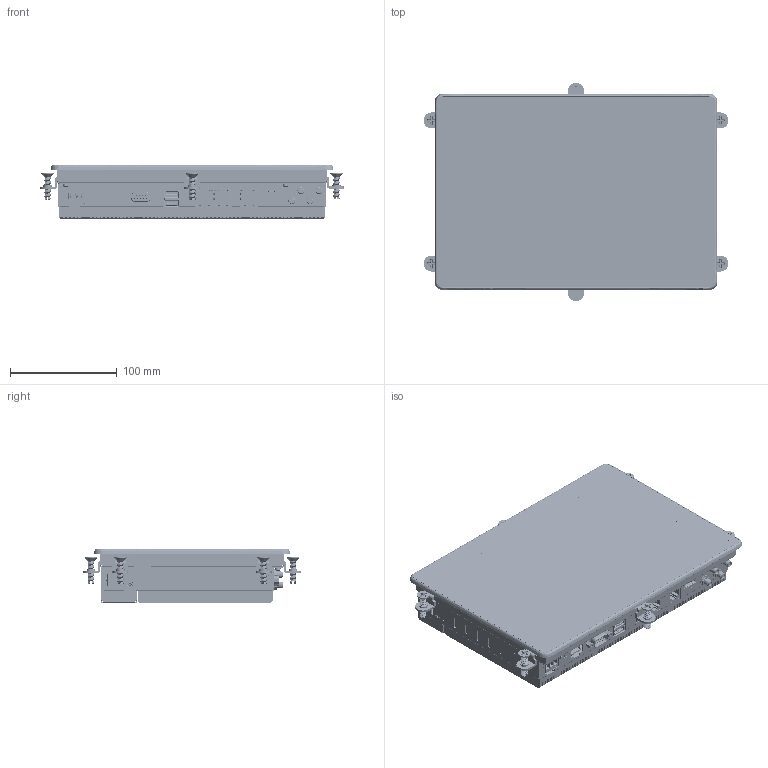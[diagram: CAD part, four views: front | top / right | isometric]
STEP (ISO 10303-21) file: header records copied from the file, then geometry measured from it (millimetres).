
FILE_DESCRIPTION((''),'2;1');
FILE_NAME('NP4C-101','2026-06-02T10:09:32',('gijyu181'),(''),'CREO PARAMETRIC BY PTC INC, 2018050','CREO PARAMETRIC BY PTC INC, 2018050','');
FILE_SCHEMA(('CONFIG_CONTROL_DESIGN','SHAPE_APPEARANCE_LAYERS_GROUPS'));
Products named in the file (1): NP4C-101
Bounding box: 285.6 x 204.6 x 50.4 mm (x, y, z)
Volume: 1273350.5 mm3; surface area: 651501.6 mm2
Topology: 38 solids, 106 shells, 27633 faces, 78010 edges, 51418 vertices
Faces by surface type: plane 19015, cylinder 6032, extrusion 1414, cone 531, bspline 320, torus 196, sphere 109, revolution 16
Entity records: 1076914 total; most frequent: CARTESIAN_POINT 232045, ORIENTED_EDGE 154961, DIRECTION 138185, EDGE_CURVE 77928, VECTOR 61039, LINE 59625, VERTEX_POINT 51419, AXIS2_PLACEMENT_3D 38565
